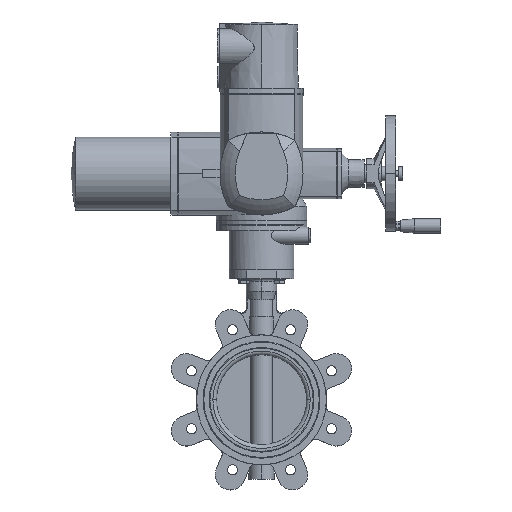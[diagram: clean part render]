
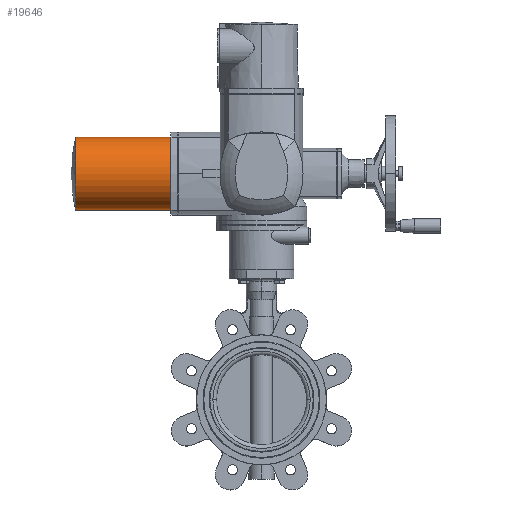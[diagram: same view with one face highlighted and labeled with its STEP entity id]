
A CAD part, top view. The second image highlights one B-rep face of the part: STEP entity #19646.
In plain terms, the highlighted cylindrical face has radius 50.5 mm (diameter 101 mm), a partial arc.
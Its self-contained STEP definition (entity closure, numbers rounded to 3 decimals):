
#604 = AXIS2_PLACEMENT_3D ( 'NONE', #6182, #15399, #10888 ) ;
#1295 = DIRECTION ( 'NONE',  ( 0., 0., 1. ) ) ;
#2000 = CARTESIAN_POINT ( 'NONE',  ( -97.021, -40., 83. ) ) ;
#2314 = DIRECTION ( 'NONE',  ( 1., 0., 0. ) ) ;
#2649 = DIRECTION ( 'NONE',  ( 1., 0., 0. ) ) ;
#2912 = VERTEX_POINT ( 'NONE', #12294 ) ;
#3871 = CARTESIAN_POINT ( 'NONE',  ( -125.5, -40., 83. ) ) ;
#4066 = CARTESIAN_POINT ( 'NONE',  ( -257.519, -40., 133.5 ) ) ;
#4183 = AXIS2_PLACEMENT_3D ( 'NONE', #8560, #17180, #1295 ) ;
#5042 = CARTESIAN_POINT ( 'NONE',  ( -97.021, -40., 184. ) ) ;
#5888 = DIRECTION ( 'NONE',  ( 0., 0., 1. ) ) ;
#5915 = CIRCLE ( 'NONE', #604, 50.5 ) ;
#6182 = CARTESIAN_POINT ( 'NONE',  ( -125.5, -40., 133.5 ) ) ;
#6588 = VECTOR ( 'NONE', #2314, 1000. ) ;
#6732 = DIRECTION ( 'NONE',  ( 0., 0., 1. ) ) ;
#7500 = ORIENTED_EDGE ( 'NONE', *, *, #28860, .T. ) ;
#8560 = CARTESIAN_POINT ( 'NONE',  ( -257.519, -40., 133.5 ) ) ;
#8849 = VERTEX_POINT ( 'NONE', #17715 ) ;
#9142 = CARTESIAN_POINT ( 'NONE',  ( -257.519, -40., 184. ) ) ;
#9297 = ORIENTED_EDGE ( 'NONE', *, *, #27019, .T. ) ;
#10888 = DIRECTION ( 'NONE',  ( 0., 0., -1. ) ) ;
#11034 = EDGE_CURVE ( 'NONE', #25101, #8849, #13363, .T. ) ;
#12294 = CARTESIAN_POINT ( 'NONE',  ( -125.5, -40., 184. ) ) ;
#12822 = EDGE_CURVE ( 'NONE', #25101, #2912, #28059, .T. ) ;
#13363 = CIRCLE ( 'NONE', #4183, 50.5 ) ;
#13628 = CIRCLE ( 'NONE', #29136, 50.5 ) ;
#15399 = DIRECTION ( 'NONE',  ( -1., 0., 0. ) ) ;
#15835 = EDGE_LOOP ( 'NONE', ( #17837, #9297, #7500, #27338, #16450 ) ) ;
#16450 = ORIENTED_EDGE ( 'NONE', *, *, #12822, .F. ) ;
#17180 = DIRECTION ( 'NONE',  ( 1., 0., 0. ) ) ;
#17715 = CARTESIAN_POINT ( 'NONE',  ( -257.519, -90.5, 133.5 ) ) ;
#17837 = ORIENTED_EDGE ( 'NONE', *, *, #11034, .T. ) ;
#18659 = LINE ( 'NONE', #2000, #6588 ) ;
#19120 = DIRECTION ( 'NONE',  ( 1., 0., 0. ) ) ;
#19412 = AXIS2_PLACEMENT_3D ( 'NONE', #20797, #2649, #6732 ) ;
#19646 = ADVANCED_FACE ( 'NONE', ( #23092 ), #27330, .T. ) ;
#20636 = VECTOR ( 'NONE', #19120, 1000. ) ;
#20797 = CARTESIAN_POINT ( 'NONE',  ( -97.021, -40., 133.5 ) ) ;
#23092 = FACE_OUTER_BOUND ( 'NONE', #15835, .T. ) ;
#25033 = VERTEX_POINT ( 'NONE', #3871 ) ;
#25101 = VERTEX_POINT ( 'NONE', #9142 ) ;
#26319 = VERTEX_POINT ( 'NONE', #29445 ) ;
#27019 = EDGE_CURVE ( 'NONE', #8849, #26319, #13628, .T. ) ;
#27179 = EDGE_CURVE ( 'NONE', #25033, #2912, #5915, .T. ) ;
#27330 = CYLINDRICAL_SURFACE ( 'NONE', #19412, 50.5 ) ;
#27338 = ORIENTED_EDGE ( 'NONE', *, *, #27179, .T. ) ;
#28059 = LINE ( 'NONE', #5042, #20636 ) ;
#28860 = EDGE_CURVE ( 'NONE', #26319, #25033, #18659, .T. ) ;
#29136 = AXIS2_PLACEMENT_3D ( 'NONE', #4066, #29485, #5888 ) ;
#29445 = CARTESIAN_POINT ( 'NONE',  ( -257.519, -40., 83. ) ) ;
#29485 = DIRECTION ( 'NONE',  ( 1., 0., 0. ) ) ;
